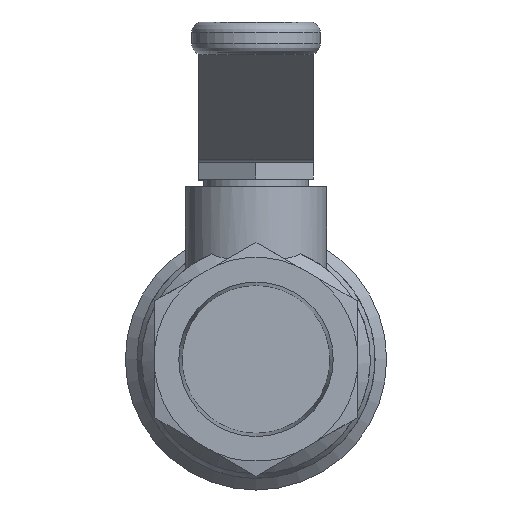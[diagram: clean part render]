
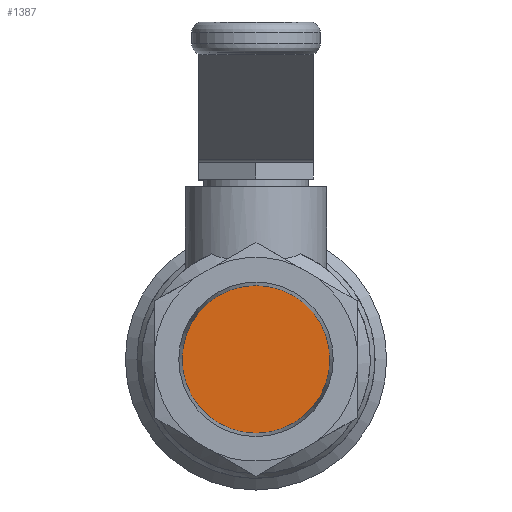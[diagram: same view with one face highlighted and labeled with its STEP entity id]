
A CAD part, left-side view. The second image highlights one B-rep face of the part: STEP entity #1387.
In plain terms, the highlighted free-form (B-spline) face has degree [1, 1] with [2, 2] control points.
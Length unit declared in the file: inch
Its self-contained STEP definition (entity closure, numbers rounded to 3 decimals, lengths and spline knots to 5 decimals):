
#1371=CARTESIAN_POINT('',(0.5343,0.37252,0.37252));
#1372=CARTESIAN_POINT('',(0.5343,-0.37252,0.37252));
#1373=CARTESIAN_POINT('',(0.5343,0.37252,-0.37252));
#1374=CARTESIAN_POINT('',(0.5343,-0.37252,-0.37252));
#1375=B_SPLINE_SURFACE_WITH_KNOTS('',1,1,((#1371,#1373),(#1372,#1374)),.UNSPECIFIED.,.F.,.F.,.U.,(2,2),(2,2),(0.0,0.74504),(0.0,0.74504),.UNSPECIFIED.);
#1376=CARTESIAN_POINT('',(0.5343,0.37252,0.0));
#1377=VERTEX_POINT('',#1376);
#1378=CARTESIAN_POINT('',(0.5343,0.0,0.0));
#1379=DIRECTION('',(1.0,0.0,0.0));
#1380=DIRECTION('',(0.0,1.0,0.0));
#1381=AXIS2_PLACEMENT_3D('',#1378,#1379,#1380);
#1382=CIRCLE('',#1381,0.37252);
#1383=EDGE_CURVE('',#1377,#1377,#1382,.T.);
#1384=ORIENTED_EDGE('',*,*,#1383,.F.);
#1385=EDGE_LOOP('',(#1384));
#1386=FACE_OUTER_BOUND('',#1385,.T.);
#1387=ADVANCED_FACE('',(#1386),#1375,.F.);
